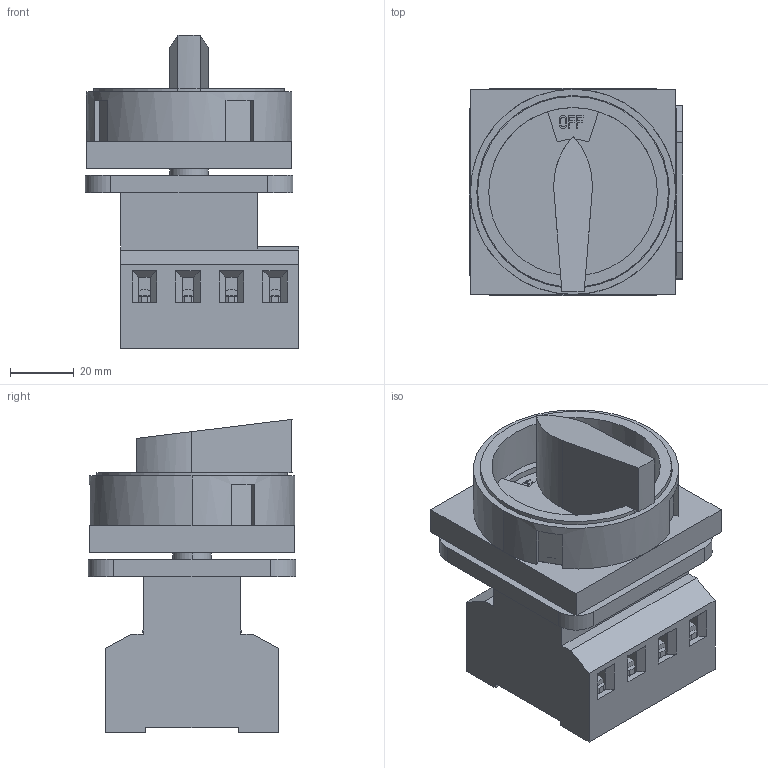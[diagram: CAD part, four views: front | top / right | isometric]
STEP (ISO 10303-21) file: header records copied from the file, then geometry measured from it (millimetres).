
FILE_DESCRIPTION((''),'2;1');
FILE_NAME('NH40-32-4-3_ASM','2021-06-16T',('wangpeng'),(''),'PRO/ENGINEER BY PARAMETRIC TECHNOLOGY CORPORATION, 2009460','PRO/ENGINEER BY PARAMETRIC TECHNOLOGY CORPORATION, 2009460','');
FILE_SCHEMA(('AUTOMOTIVE_DESIGN { 1 0 10303 214 1 1 1 1 }'));
Length unit declared in the file: millimetre
Products named in the file (5): ZJ32; CT63; DP63; LDM4; NH40-32-4-3_ASM
Assembly tree (21 placements, depth 2):
  NH40-32-4-3_ASM
    ZJ32
    CT63  x4
    DP63  x8
    LDM4  x8
Bounding box: 67.15 x 65.3 x 98.5 mm (x, y, z)
Volume: 112816.8 mm3; surface area: 83831.5 mm2
Topology: 21 solids, 21 shells, 991 faces, 2709 edges, 1775 vertices
Faces by surface type: plane 668, cylinder 243, bspline 56, sphere 16, cone 8
Entity records: 34207 total; most frequent: CARTESIAN_POINT 16183, ORIENTED_EDGE 3942, DIRECTION 3216, EDGE_CURVE 1971, VECTOR 1402, LINE 1402, VERTEX_POINT 1297, AXIS2_PLACEMENT_3D 907
